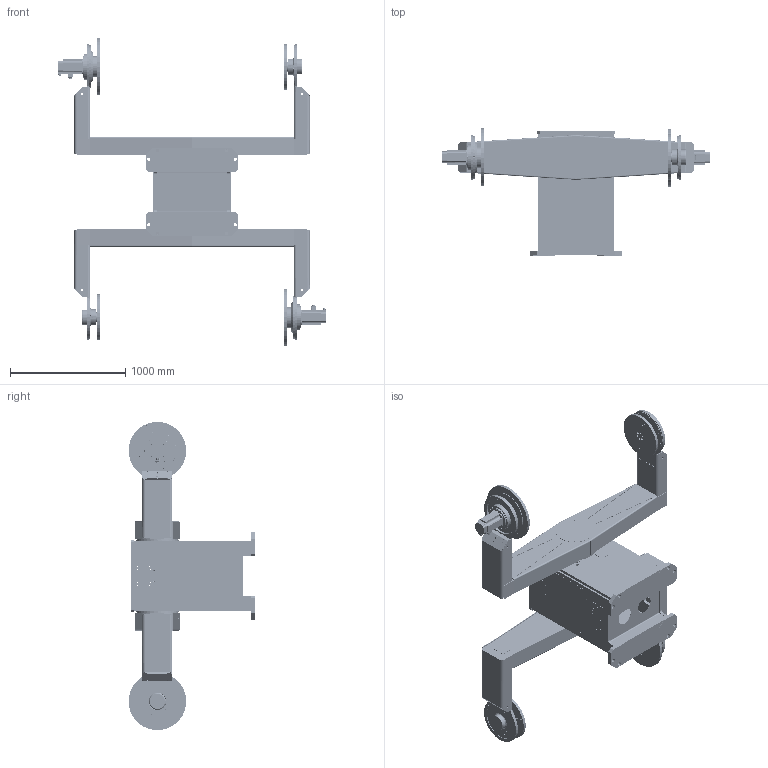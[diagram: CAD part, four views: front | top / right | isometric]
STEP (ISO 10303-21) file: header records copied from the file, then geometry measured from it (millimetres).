
FILE_DESCRIPTION (( 'STEP AP214' ), '1' );
FILE_NAME ('140675red.STEP', '2008-10-21T09:34:18', ( ' ' ), ( ' ' ), 'SwSTEP 2.0', 'SolidWorks 2007', '' );
FILE_SCHEMA (( 'AUTOMOTIVE_DESIGN' ));
Length unit declared in the file: millimetre
Products named in the file (5): 141902red_Standard; 141805red_Standard; 126773red_Standard; 131645red_Standard; 140675red
Assembly tree (7 placements, depth 2):
  140675red
    126773red_Standard  x2
    141902red_Standard
    131645red_Standard  x2
    141805red_Standard  x2
Bounding box: 2332 x 1099.98 x 2673.91 mm (x, y, z)
Volume: 170333156.3 mm3; surface area: 25897786.3 mm2
Topology: 119 solids, 121 shells, 6397 faces, 16632 edges, 10423 vertices
Faces by surface type: cylinder 3568, plane 1819, cone 806, torus 172, bspline 24, sphere 8
Entity records: 177262 total; most frequent: CARTESIAN_POINT 24764, DIRECTION 23742, ORIENTED_EDGE 21220, EDGE_CURVE 10610, AXIS2_PLACEMENT_3D 9185, VERTEX_POINT 6901, EDGE_LOOP 5937, VECTOR 5372
